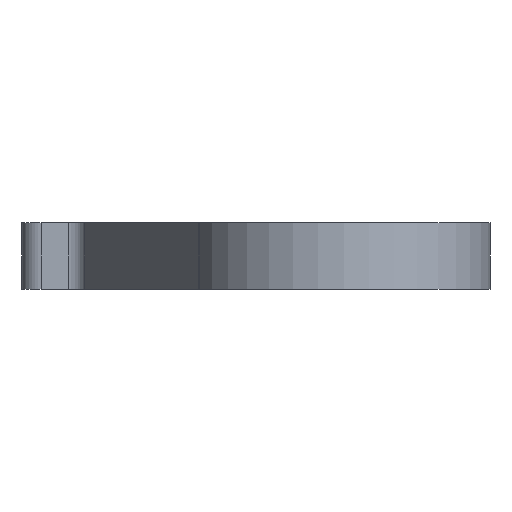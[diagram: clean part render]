
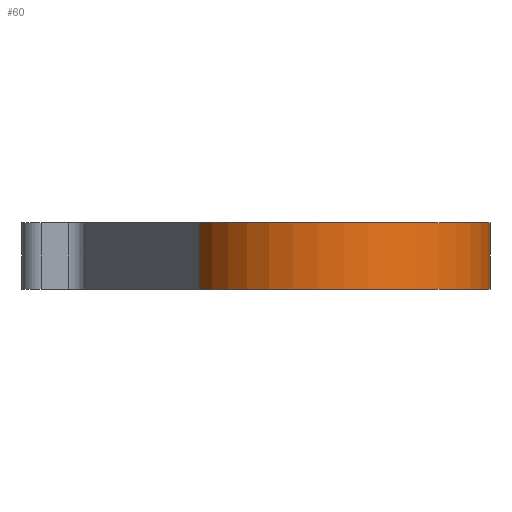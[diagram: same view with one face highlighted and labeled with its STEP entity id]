
A CAD part, front view. The second image highlights one B-rep face of the part: STEP entity #60.
In plain terms, the highlighted cylindrical face has radius 50.8 mm (diameter 101.6 mm), a partial arc.
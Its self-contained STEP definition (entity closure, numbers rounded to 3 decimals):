
#36 = DIRECTION ( 'NONE',  ( 0., 0., 1. ) ) ;
#46 = EDGE_CURVE ( 'NONE', #689, #160, #136, .T. ) ;
#60 = ADVANCED_FACE ( 'NONE', ( #1039 ), #1063, .T. ) ;
#85 = AXIS2_PLACEMENT_3D ( 'NONE', #333, #749, #650 ) ;
#100 = AXIS2_PLACEMENT_3D ( 'NONE', #340, #334, #1055 ) ;
#104 = VERTEX_POINT ( 'NONE', #1296 ) ;
#136 = LINE ( 'NONE', #521, #1156 ) ;
#146 = CIRCLE ( 'NONE', #85, 50.8 ) ;
#160 = VERTEX_POINT ( 'NONE', #676 ) ;
#175 = CARTESIAN_POINT ( 'NONE',  ( -31.796, 56.39, 22.225 ) ) ;
#183 = CARTESIAN_POINT ( 'NONE',  ( -31.796, 56.39, 22.225 ) ) ;
#184 = EDGE_LOOP ( 'NONE', ( #958, #755, #494, #903 ) ) ;
#333 = CARTESIAN_POINT ( 'NONE',  ( -1.874, 15.337, 0. ) ) ;
#334 = DIRECTION ( 'NONE',  ( 0., 0., -1. ) ) ;
#340 = CARTESIAN_POINT ( 'NONE',  ( -1.874, 15.337, 22.225 ) ) ;
#447 = CARTESIAN_POINT ( 'NONE',  ( -1.874, 15.337, 22.225 ) ) ;
#494 = ORIENTED_EDGE ( 'NONE', *, *, #836, .T. ) ;
#521 = CARTESIAN_POINT ( 'NONE',  ( -48.202, -5.504, 22.225 ) ) ;
#523 = AXIS2_PLACEMENT_3D ( 'NONE', #447, #36, #661 ) ;
#588 = CIRCLE ( 'NONE', #523, 50.8 ) ;
#635 = VERTEX_POINT ( 'NONE', #183 ) ;
#650 = DIRECTION ( 'NONE',  ( 1., 0., 0. ) ) ;
#661 = DIRECTION ( 'NONE',  ( 1., 0., 0. ) ) ;
#676 = CARTESIAN_POINT ( 'NONE',  ( -48.202, -5.504, 0. ) ) ;
#682 = EDGE_CURVE ( 'NONE', #104, #635, #1006, .T. ) ;
#689 = VERTEX_POINT ( 'NONE', #1046 ) ;
#749 = DIRECTION ( 'NONE',  ( 0., 0., 1. ) ) ;
#755 = ORIENTED_EDGE ( 'NONE', *, *, #46, .T. ) ;
#786 = VECTOR ( 'NONE', #1320, 1000. ) ;
#836 = EDGE_CURVE ( 'NONE', #160, #104, #146, .T. ) ;
#903 = ORIENTED_EDGE ( 'NONE', *, *, #682, .T. ) ;
#958 = ORIENTED_EDGE ( 'NONE', *, *, #1134, .F. ) ;
#1006 = LINE ( 'NONE', #175, #786 ) ;
#1034 = DIRECTION ( 'NONE',  ( 0., 0., -1. ) ) ;
#1039 = FACE_OUTER_BOUND ( 'NONE', #184, .T. ) ;
#1046 = CARTESIAN_POINT ( 'NONE',  ( -48.202, -5.504, 22.225 ) ) ;
#1055 = DIRECTION ( 'NONE',  ( -1., 0., 0. ) ) ;
#1063 = CYLINDRICAL_SURFACE ( 'NONE', #100, 50.8 ) ;
#1134 = EDGE_CURVE ( 'NONE', #689, #635, #588, .T. ) ;
#1156 = VECTOR ( 'NONE', #1034, 1000. ) ;
#1296 = CARTESIAN_POINT ( 'NONE',  ( -31.796, 56.39, 0. ) ) ;
#1320 = DIRECTION ( 'NONE',  ( 0., 0., 1. ) ) ;
